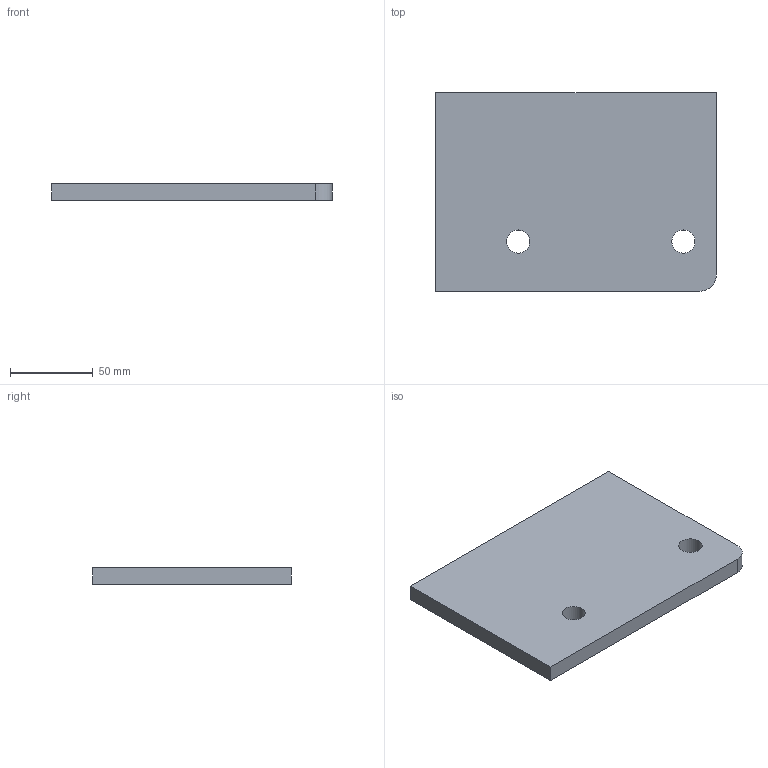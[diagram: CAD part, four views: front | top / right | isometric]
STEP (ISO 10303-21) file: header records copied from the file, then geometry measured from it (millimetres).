
FILE_DESCRIPTION(/* description */ (''),/* implementation_level */ '2;1');
FILE_NAME(/* name */ 'Pos124-Plaatwerk D= 10-S235JRG2-3st',/* time_stamp */ '2024-08-06T13:37:45+02:00',/* author */ (''),/* organization */ (''),/* preprocessor_version */ 'ST-DEVELOPER v16.5',/* originating_system */ 'HiCAD 2024 2901.2 Build 361',/* authorisation */ '');
FILE_SCHEMA (('AUTOMOTIVE_DESIGN { 1 0 10303 214 1 1 1 1 }'));
Length unit declared in the file: millimetre
Products named in the file (1): Pos124-Plaatwerk D= 10-S235JRG2-3st
Bounding box: 170 x 120 x 10 mm (x, y, z)
Volume: 200706.6 mm3; surface area: 46778.1 mm2
Topology: 1 solids, 1 shells, 9 faces, 21 edges, 14 vertices
Faces by surface type: plane 6, cylinder 3
Full cylindrical faces by diameter (mm): 14 x2
Entity records: 467 total; most frequent: DIRECTION 43, CARTESIAN_POINT 42, PRESENTATION_STYLE_ASSIGNMENT 39, COLOUR_RGB 39, DRAUGHTING_PRE_DEFINED_CURVE_FONT 38, CURVE_STYLE 38, OVER_RIDING_STYLED_ITEM 38, ORIENTED_EDGE 38
